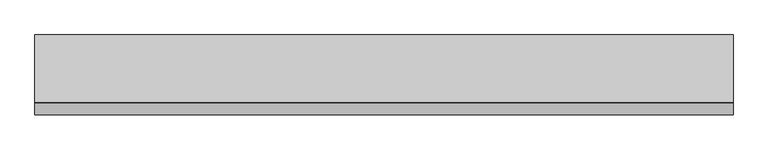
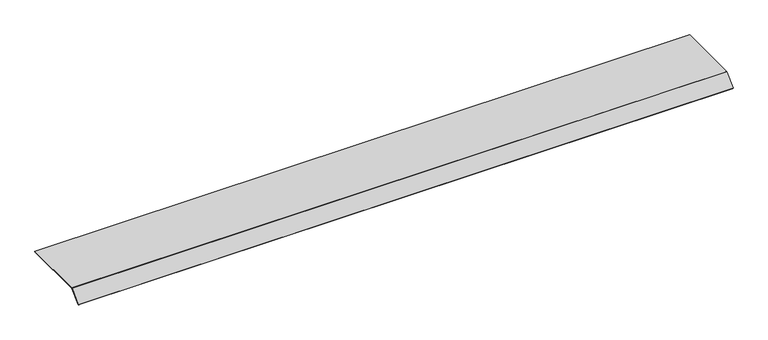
"""IFC4 building model written with IfcOpenShell, lengths in millimetres: proxy geometry, Electrical_Installation_Hager_Blank-Cover-800mm-Single-Sided-Height-70mm : Electrical_Installation_Hager_Blank-Cover-800mm-Single-Sided-Height-70mm."""

from ifc_helpers import new_model, si_unit, point, frame, frame_2d, origin, place, context, project, spatial, polyline, circle_curve, trimmed, segment, composite_curve, outline, extrude, source, transform, mapped, element, save


def electrical_fixtures_9c56483d(model_context):
    return source(origin(), model_context, "Body", "SweptSolid", [
        extrude(outline(composite_curve([segment(polyline([(200.0, 40.5), (200.0, 37.5), (-199.8229541, 37.5)]), True, "CONTINUOUS"), segment(trimmed(circle_curve(frame_2d((-199.8229541, 36.0725733)), 1.4274267), [point((-199.8229541, 37.5))], [point((-200.8322972, 37.0819164))], True, "CARTESIAN"), True, "CONTINUOUS"), segment(polyline([(-200.8322972, 37.0819164), (-268.6627596, -30.7485461), (-270.78408, -28.6272257), (-202.8206472, 39.336207)]), True, "CONTINUOUS"), segment(trimmed(circle_curve(frame_2d((-200.0110025, 36.5265623)), 3.9734377), [point((-202.8206472, 39.336207))], [point((-200.0110025, 40.5))], False, "CARTESIAN"), True, "CONTINUOUS"), segment(polyline([(-200.0110025, 40.5), (200.0, 40.5)]), True, "CONTINUOUS")], self_intersect=False)), frame((0.0, 0.0, 0.0), z_axis=(1.0, 0.0, 0.0), x_axis=(0.0, 1.0, 0.0)), (0.0, 0.0, 1.0), 4104.8929886),
    ])


if __name__ == "__main__":
    model = new_model("IFC4")
    model_context = context("Model", 3, world=origin())
    ifc_project = project(units=[si_unit("LENGTHUNIT", "METRE", prefix="MILLI")], contexts=[model_context])
    site = spatial("IfcSite", under=ifc_project)
    building = spatial("IfcBuilding", under=site)
    placement = place(None, origin())
    electrical_fixtures_shape = electrical_fixtures_9c56483d(model_context)
    element("IfcBuildingElementProxy", 1, Name="Electrical_Installation_Hager_Blank-Cover-800mm-Single-Sided-Height-70mm : Electrical_Installation_Hager_Blank-Cover-800mm-Single-Sided-Height-70mm", ObjectType="Electrical_Installation_Hager_Blank-Cover-800mm-Single-Sided-Height-70mm : Electrical_Installation_Hager_Blank-Cover-800mm-Single-Sided-Height-70mm", at=placement, inside=building, context=model_context, shape_type="MappedRepresentation", body=[
        mapped(electrical_fixtures_shape, transform((0.0, 0.0, 0.0), x_axis=(1.0, 0.0, 0.0), y_axis=(0.0, 1.0, 0.0), z_axis=(0.0, 0.0, 1.0))),
    ])
    save(model, "model.ifc")
